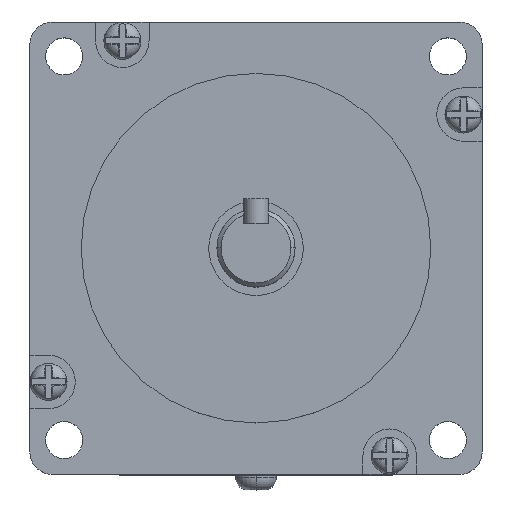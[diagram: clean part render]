
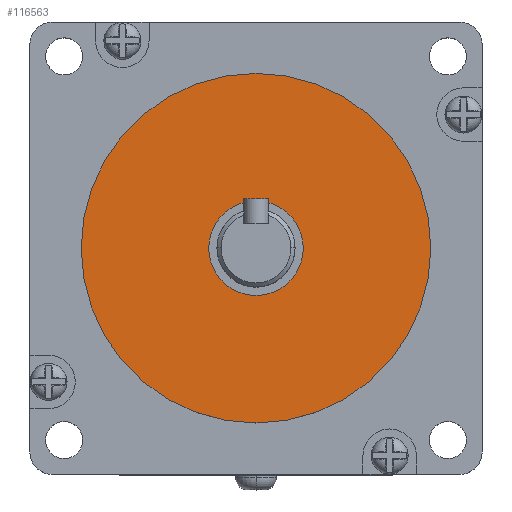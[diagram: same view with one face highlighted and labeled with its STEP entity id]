
A CAD part, top view. The second image highlights one B-rep face of the part: STEP entity #116563.
In plain terms, the highlighted planar face has unit normal (0, 0, 1).
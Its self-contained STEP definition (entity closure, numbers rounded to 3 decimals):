
#3288 = DIRECTION ( 'NONE',  ( 1., 0., 0. ) ) ;
#3962 = CARTESIAN_POINT ( 'NONE',  ( 0., 0., 166. ) ) ;
#13216 = VERTEX_POINT ( 'NONE', #98874 ) ;
#24361 = CARTESIAN_POINT ( 'NONE',  ( -42.5, 0., 166. ) ) ;
#24377 = EDGE_CURVE ( 'NONE', #94917, #102942, #42304, .T. ) ;
#25151 = DIRECTION ( 'NONE',  ( 0., 0., 1. ) ) ;
#26099 = CIRCLE ( 'NONE', #99884, 11.5 ) ;
#31617 = CARTESIAN_POINT ( 'NONE',  ( 0., 0., 166. ) ) ;
#35838 = CARTESIAN_POINT ( 'NONE',  ( 0., 0., 166. ) ) ;
#38017 = ORIENTED_EDGE ( 'NONE', *, *, #24377, .T. ) ;
#42304 = CIRCLE ( 'NONE', #57545, 42.5 ) ;
#43530 = CARTESIAN_POINT ( 'NONE',  ( 42.5, 0., 166. ) ) ;
#44010 = ORIENTED_EDGE ( 'NONE', *, *, #107567, .F. ) ;
#57338 = CIRCLE ( 'NONE', #124796, 11.5 ) ;
#57545 = AXIS2_PLACEMENT_3D ( 'NONE', #3962, #25151, #3288 ) ;
#58984 = DIRECTION ( 'NONE',  ( 1., 0., 0. ) ) ;
#60407 = DIRECTION ( 'NONE',  ( 1., 0., 0. ) ) ;
#61951 = VERTEX_POINT ( 'NONE', #118674 ) ;
#62260 = ORIENTED_EDGE ( 'NONE', *, *, #109761, .F. ) ;
#67251 = FACE_OUTER_BOUND ( 'NONE', #91546, .T. ) ;
#69252 = DIRECTION ( 'NONE',  ( 0., 0., 1. ) ) ;
#72068 = AXIS2_PLACEMENT_3D ( 'NONE', #31617, #83939, #103052 ) ;
#75403 = EDGE_CURVE ( 'NONE', #102942, #94917, #119972, .T. ) ;
#81393 = EDGE_LOOP ( 'NONE', ( #44010, #62260 ) ) ;
#83939 = DIRECTION ( 'NONE',  ( 0., 0., 1. ) ) ;
#91546 = EDGE_LOOP ( 'NONE', ( #94200, #38017 ) ) ;
#94200 = ORIENTED_EDGE ( 'NONE', *, *, #75403, .T. ) ;
#94219 = AXIS2_PLACEMENT_3D ( 'NONE', #129932, #69252, #60407 ) ;
#94917 = VERTEX_POINT ( 'NONE', #43530 ) ;
#98874 = CARTESIAN_POINT ( 'NONE',  ( -11.5, 0., 166. ) ) ;
#99884 = AXIS2_PLACEMENT_3D ( 'NONE', #119616, #101139, #58984 ) ;
#101139 = DIRECTION ( 'NONE',  ( 0., 0., 1. ) ) ;
#102942 = VERTEX_POINT ( 'NONE', #24361 ) ;
#103052 = DIRECTION ( 'NONE',  ( 1., 0., 0. ) ) ;
#106797 = PLANE ( 'NONE',  #94219 ) ;
#107567 = EDGE_CURVE ( 'NONE', #13216, #61951, #26099, .T. ) ;
#109761 = EDGE_CURVE ( 'NONE', #61951, #13216, #57338, .T. ) ;
#111134 = DIRECTION ( 'NONE',  ( 1., 0., 0. ) ) ;
#116406 = FACE_BOUND ( 'NONE', #81393, .T. ) ;
#116563 = ADVANCED_FACE ( 'NONE', ( #67251, #116406 ), #106797, .T. ) ;
#118674 = CARTESIAN_POINT ( 'NONE',  ( 11.5, 0., 166. ) ) ;
#119616 = CARTESIAN_POINT ( 'NONE',  ( 0., 0., 166. ) ) ;
#119972 = CIRCLE ( 'NONE', #72068, 42.5 ) ;
#124796 = AXIS2_PLACEMENT_3D ( 'NONE', #35838, #129036, #111134 ) ;
#129036 = DIRECTION ( 'NONE',  ( 0., 0., 1. ) ) ;
#129932 = CARTESIAN_POINT ( 'NONE',  ( 0., 0., 166. ) ) ;
